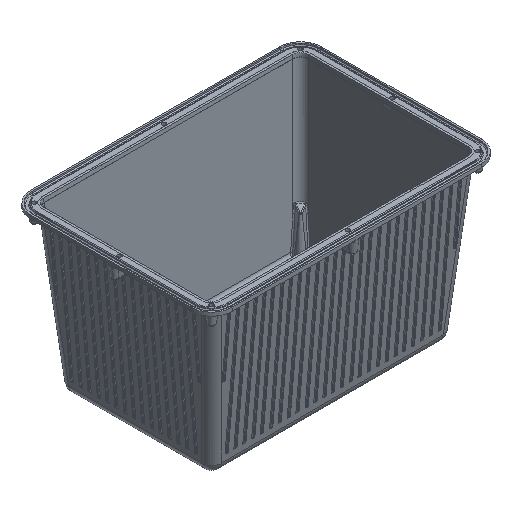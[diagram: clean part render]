
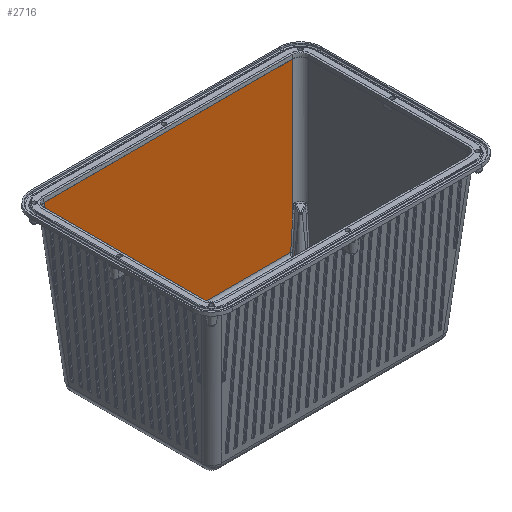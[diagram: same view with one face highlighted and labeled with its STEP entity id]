
A CAD part, isometric view. The second image highlights one B-rep face of the part: STEP entity #2716.
In plain terms, the highlighted planar face has unit normal (0, -0.996, 0.087).
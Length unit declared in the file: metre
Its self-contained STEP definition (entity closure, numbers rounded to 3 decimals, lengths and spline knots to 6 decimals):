
#2716 = ADVANCED_FACE( '', ( #5989 ), #5990, .F. );
#5989 = FACE_OUTER_BOUND( '', #17812, .T. );
#5990 = PLANE( '', #17813 );
#17812 = EDGE_LOOP( '', ( #30191, #30192, #30193, #30194, #30195, #30196, #30197, #30198 ) );
#17813 = AXIS2_PLACEMENT_3D( '', #30199, #30200, #30201 );
#30191 = ORIENTED_EDGE( '', *, *, #37218, .T. );
#30192 = ORIENTED_EDGE( '', *, *, #36642, .T. );
#30193 = ORIENTED_EDGE( '', *, *, #37219, .T. );
#30194 = ORIENTED_EDGE( '', *, *, #35247, .F. );
#30195 = ORIENTED_EDGE( '', *, *, #37220, .T. );
#30196 = ORIENTED_EDGE( '', *, *, #35343, .F. );
#30197 = ORIENTED_EDGE( '', *, *, #35014, .T. );
#30198 = ORIENTED_EDGE( '', *, *, #34118, .T. );
#30199 = CARTESIAN_POINT( '', ( 0., 0.148013, 0.000288 ) );
#30200 = DIRECTION( '', ( 0., 0.996, -0.087 ) );
#30201 = DIRECTION( '', ( -1., 0., 0. ) );
#34118 = EDGE_CURVE( '', #38194, #38192, #38195, .T. );
#35014 = EDGE_CURVE( '', #39745, #38194, #39746, .T. );
#35247 = EDGE_CURVE( '', #40145, #40147, #40148, .F. );
#35343 = EDGE_CURVE( '', #39745, #40310, #40317, .T. );
#36642 = EDGE_CURVE( '', #42204, #38772, #42205, .T. );
#37218 = EDGE_CURVE( '', #38192, #42204, #42924, .T. );
#37219 = EDGE_CURVE( '', #38772, #40147, #42925, .T. );
#37220 = EDGE_CURVE( '', #40145, #40310, #42926, .T. );
#38192 = VERTEX_POINT( '', #44028 );
#38194 = VERTEX_POINT( '', #44030 );
#38195 = CIRCLE( '', #44031, 0.023 );
#38772 = VERTEX_POINT( '', #45263 );
#39745 = VERTEX_POINT( '', #47554 );
#39746 = LINE( '', #47555, #47556 );
#40145 = VERTEX_POINT( '', #48177 );
#40147 = VERTEX_POINT( '', #48179 );
#40148 = LINE( '', #48180, #48181 );
#40310 = VERTEX_POINT( '', #48431 );
#40317 = LINE( '', #48441, #48442 );
#42204 = VERTEX_POINT( '', #53490 );
#42205 = LINE( '', #53491, #53492 );
#42924 = LINE( '', #54877, #54878 );
#42925 = LINE( '', #54879, #54880 );
#42926 = LINE( '', #54881, #54882 );
#44028 = CARTESIAN_POINT( '', ( 0.022756, 0.124856, -0.264397 ) );
#44030 = CARTESIAN_POINT( '', ( -0.022756, 0.124856, -0.264397 ) );
#44031 = AXIS2_PLACEMENT_3D( '', #56794, #56795, #56796 );
#45263 = CARTESIAN_POINT( '', ( 0.19128, 0.129231, -0.21439 ) );
#47554 = CARTESIAN_POINT( '', ( -0.186107, 0.124856, -0.264397 ) );
#47555 = CARTESIAN_POINT( '', ( 0., 0.124856, -0.264397 ) );
#47556 = VECTOR( '', #58089, 1. );
#48177 = CARTESIAN_POINT( '', ( -0.209508, 0.147458, -0.00605 ) );
#48179 = CARTESIAN_POINT( '', ( 0.209508, 0.147458, -0.00605 ) );
#48180 = CARTESIAN_POINT( '', ( -0.210005, 0.147458, -0.00605 ) );
#48181 = VECTOR( '', #58381, 1. );
#48431 = CARTESIAN_POINT( '', ( -0.187908, 0.125858, -0.252936 ) );
#48441 = CARTESIAN_POINT( '', ( -0.190841, 0.127492, -0.234266 ) );
#48442 = VECTOR( '', #58479, 1. );
#53490 = CARTESIAN_POINT( '', ( 0.183424, 0.124856, -0.264397 ) );
#53491 = CARTESIAN_POINT( '', ( 0.185289, 0.125894, -0.252528 ) );
#53492 = VECTOR( '', #60246, 1. );
#54877 = CARTESIAN_POINT( '', ( 0., 0.124856, -0.264397 ) );
#54878 = VECTOR( '', #60945, 1. );
#54879 = CARTESIAN_POINT( '', ( 0.197147, 0.135098, -0.147331 ) );
#54880 = VECTOR( '', #60946, 1. );
#54881 = CARTESIAN_POINT( '', ( -0.186364, 0.124314, -0.270584 ) );
#54882 = VECTOR( '', #60947, 1. );
#56794 = CARTESIAN_POINT( '', ( 0., 0.125147, -0.261066 ) );
#56795 = DIRECTION( '', ( 0., 0.996, -0.087 ) );
#56796 = DIRECTION( '', ( 0., 0.087, 0.996 ) );
#58089 = DIRECTION( '', ( 1., 0., 0. ) );
#58381 = DIRECTION( '', ( -1., 0., 0. ) );
#58479 = DIRECTION( '', ( -0.155, 0.086, 0.984 ) );
#60246 = DIRECTION( '', ( 0.155, 0.086, 0.984 ) );
#60945 = DIRECTION( '', ( 1., 0., 0. ) );
#60946 = DIRECTION( '', ( 0.087, 0.087, 0.992 ) );
#60947 = DIRECTION( '', ( 0.087, -0.087, -0.992 ) );
